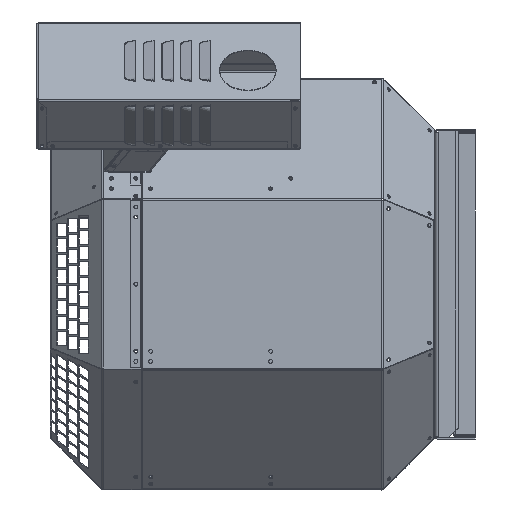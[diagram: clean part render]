
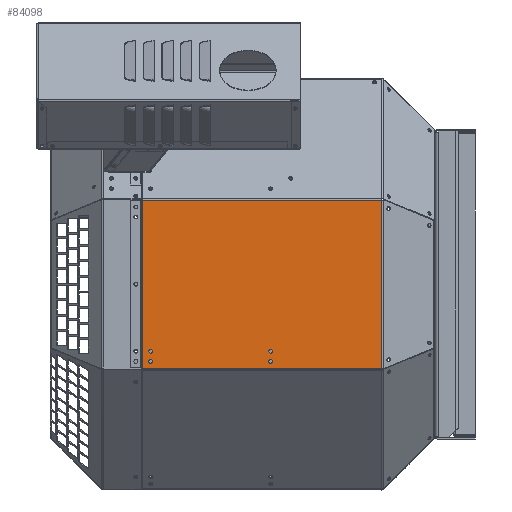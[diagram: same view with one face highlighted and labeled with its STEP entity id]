
A CAD part, left-side view. The second image highlights one B-rep face of the part: STEP entity #84098.
In plain terms, the highlighted planar face has unit normal (-1, 0, 0).
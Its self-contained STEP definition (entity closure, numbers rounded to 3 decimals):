
#552 = DIRECTION ( 'NONE',  ( 0., 0., 1. ) ) ;
#578 = VECTOR ( 'NONE', #54676, 1000. ) ;
#999 = CARTESIAN_POINT ( 'NONE',  ( -226., 334.155, -91.837 ) ) ;
#2700 = CIRCLE ( 'NONE', #22429, 2.1 ) ;
#2717 = VERTEX_POINT ( 'NONE', #24611 ) ;
#4010 = VERTEX_POINT ( 'NONE', #74800 ) ;
#4421 = DIRECTION ( 'NONE',  ( -1., 0., 0. ) ) ;
#6282 = CARTESIAN_POINT ( 'NONE',  ( -226., 180.147, -75.81 ) ) ;
#7883 = ORIENTED_EDGE ( 'NONE', *, *, #78067, .F. ) ;
#8055 = DIRECTION ( 'NONE',  ( -1., 0., 0. ) ) ;
#9243 = ORIENTED_EDGE ( 'NONE', *, *, #32704, .F. ) ;
#9701 = DIRECTION ( 'NONE',  ( -1., 0., 0. ) ) ;
#9742 = VECTOR ( 'NONE', #37483, 1000. ) ;
#10084 = CARTESIAN_POINT ( 'NONE',  ( -226., 334.155, -92.287 ) ) ;
#10524 = CARTESIAN_POINT ( 'NONE',  ( -226., 58.185, 93.198 ) ) ;
#10737 = CARTESIAN_POINT ( 'NONE',  ( -226., 311.927, -86.918 ) ) ;
#10764 = CIRCLE ( 'NONE', #37377, 2.1 ) ;
#11404 = CARTESIAN_POINT ( 'NONE',  ( -226., 180.147, -82.718 ) ) ;
#13666 = CARTESIAN_POINT ( 'NONE',  ( -226., 180.147, -71.61 ) ) ;
#15492 = DIRECTION ( 'NONE',  ( -1., 0., 0. ) ) ;
#16260 = ORIENTED_EDGE ( 'NONE', *, *, #76220, .F. ) ;
#16840 = DIRECTION ( 'NONE',  ( 0., -1., 0. ) ) ;
#17514 = FACE_BOUND ( 'NONE', #49483, .T. ) ;
#18266 = DIRECTION ( 'NONE',  ( -1., 0., 0. ) ) ;
#18417 = LINE ( 'NONE', #999, #578 ) ;
#19089 = VERTEX_POINT ( 'NONE', #11404 ) ;
#19292 = VERTEX_POINT ( 'NONE', #13666 ) ;
#19460 = CARTESIAN_POINT ( 'NONE',  ( -226., 320.763, 91.837 ) ) ;
#19507 = ORIENTED_EDGE ( 'NONE', *, *, #62305, .F. ) ;
#20829 = ORIENTED_EDGE ( 'NONE', *, *, #22721, .F. ) ;
#21372 = PLANE ( 'NONE',  #38663 ) ;
#21894 = EDGE_LOOP ( 'NONE', ( #35838, #7883 ) ) ;
#22270 = ORIENTED_EDGE ( 'NONE', *, *, #38658, .F. ) ;
#22424 = VECTOR ( 'NONE', #49475, 1000. ) ;
#22429 = AXIS2_PLACEMENT_3D ( 'NONE', #80976, #40736, #552 ) ;
#22435 = AXIS2_PLACEMENT_3D ( 'NONE', #49833, #9701, #56619 ) ;
#22721 = EDGE_CURVE ( 'NONE', #52142, #85248, #61144, .T. ) ;
#22914 = EDGE_CURVE ( 'NONE', #4010, #57072, #82163, .T. ) ;
#24611 = CARTESIAN_POINT ( 'NONE',  ( -226., 311.927, -71.61 ) ) ;
#25181 = VECTOR ( 'NONE', #16840, 1000. ) ;
#26021 = CARTESIAN_POINT ( 'NONE',  ( -226., 320.763, 93.198 ) ) ;
#26078 = AXIS2_PLACEMENT_3D ( 'NONE', #55667, #15492, #62386 ) ;
#26151 = VECTOR ( 'NONE', #76429, 1000. ) ;
#28156 = CARTESIAN_POINT ( 'NONE',  ( -226., 180.147, -73.71 ) ) ;
#29575 = EDGE_CURVE ( 'NONE', #53374, #2717, #82384, .T. ) ;
#30696 = ORIENTED_EDGE ( 'NONE', *, *, #68399, .T. ) ;
#30910 = CIRCLE ( 'NONE', #26078, 2.1 ) ;
#31290 = CARTESIAN_POINT ( 'NONE',  ( -226., 320.755, 92.287 ) ) ;
#32245 = CARTESIAN_POINT ( 'NONE',  ( -226., 320.755, -94.837 ) ) ;
#32594 = EDGE_CURVE ( 'NONE', #86813, #85248, #43006, .T. ) ;
#32704 = EDGE_CURVE ( 'NONE', #19089, #65163, #72458, .T. ) ;
#32997 = EDGE_LOOP ( 'NONE', ( #68287, #44229, #71448, #73525, #20829, #67620, #30696, #33866 ) ) ;
#33118 = EDGE_CURVE ( 'NONE', #42669, #19292, #48329, .T. ) ;
#33133 = ORIENTED_EDGE ( 'NONE', *, *, #33118, .F. ) ;
#33251 = FACE_OUTER_BOUND ( 'NONE', #32997, .T. ) ;
#33866 = ORIENTED_EDGE ( 'NONE', *, *, #59999, .T. ) ;
#34847 = DIRECTION ( 'NONE',  ( 0., 0., 1. ) ) ;
#34924 = DIRECTION ( 'NONE',  ( 0., 0., 1. ) ) ;
#35838 = ORIENTED_EDGE ( 'NONE', *, *, #79808, .F. ) ;
#36435 = CIRCLE ( 'NONE', #65949, 2.1 ) ;
#37377 = AXIS2_PLACEMENT_3D ( 'NONE', #79973, #39731, #86667 ) ;
#37483 = DIRECTION ( 'NONE',  ( 0., 0., -1. ) ) ;
#37597 = AXIS2_PLACEMENT_3D ( 'NONE', #58441, #18266, #65217 ) ;
#38658 = EDGE_CURVE ( 'NONE', #19292, #42669, #82693, .T. ) ;
#38663 = AXIS2_PLACEMENT_3D ( 'NONE', #68324, #75056, #34847 ) ;
#38756 = CARTESIAN_POINT ( 'NONE',  ( -226., 58.185, 92.287 ) ) ;
#39523 = VERTEX_POINT ( 'NONE', #10737 ) ;
#39731 = DIRECTION ( 'NONE',  ( -1., 0., 0. ) ) ;
#39745 = VERTEX_POINT ( 'NONE', #53208 ) ;
#39814 = EDGE_CURVE ( 'NONE', #4010, #71738, #18417, .T. ) ;
#40257 = LINE ( 'NONE', #82989, #22424 ) ;
#40736 = DIRECTION ( 'NONE',  ( -1., 0., 0. ) ) ;
#42669 = VERTEX_POINT ( 'NONE', #6282 ) ;
#42843 = AXIS2_PLACEMENT_3D ( 'NONE', #28156, #75137, #34924 ) ;
#43006 = LINE ( 'NONE', #10084, #25181 ) ;
#43940 = LINE ( 'NONE', #76131, #26151 ) ;
#44229 = ORIENTED_EDGE ( 'NONE', *, *, #39814, .T. ) ;
#44512 = CARTESIAN_POINT ( 'NONE',  ( -226., 180.147, -84.818 ) ) ;
#46089 = VECTOR ( 'NONE', #83109, 1000. ) ;
#48180 = CARTESIAN_POINT ( 'NONE',  ( -226., 311.927, -73.71 ) ) ;
#48204 = LINE ( 'NONE', #76346, #46089 ) ;
#48329 = CIRCLE ( 'NONE', #22435, 2.1 ) ;
#48485 = VECTOR ( 'NONE', #73001, 1000. ) ;
#49272 = AXIS2_PLACEMENT_3D ( 'NONE', #48180, #8055, #54946 ) ;
#49475 = DIRECTION ( 'NONE',  ( 0., -1., 0. ) ) ;
#49483 = EDGE_LOOP ( 'NONE', ( #9243, #16260 ) ) ;
#49833 = CARTESIAN_POINT ( 'NONE',  ( -226., 180.147, -73.71 ) ) ;
#50174 = VECTOR ( 'NONE', #79255, 1000. ) ;
#51063 = FACE_BOUND ( 'NONE', #57488, .T. ) ;
#51280 = DIRECTION ( 'NONE',  ( 0., 0., 1. ) ) ;
#51548 = EDGE_CURVE ( 'NONE', #71738, #86813, #65966, .T. ) ;
#52142 = VERTEX_POINT ( 'NONE', #38756 ) ;
#52839 = CARTESIAN_POINT ( 'NONE',  ( -226., 58.185, -92.287 ) ) ;
#52877 = VERTEX_POINT ( 'NONE', #31290 ) ;
#53194 = FACE_BOUND ( 'NONE', #21894, .T. ) ;
#53208 = CARTESIAN_POINT ( 'NONE',  ( -226., 311.927, -82.718 ) ) ;
#53287 = ORIENTED_EDGE ( 'NONE', *, *, #29575, .F. ) ;
#53374 = VERTEX_POINT ( 'NONE', #86410 ) ;
#54676 = DIRECTION ( 'NONE',  ( 0., -1., 0. ) ) ;
#54946 = DIRECTION ( 'NONE',  ( 0., 0., 1. ) ) ;
#55667 = CARTESIAN_POINT ( 'NONE',  ( -226., 311.927, -84.818 ) ) ;
#56273 = EDGE_CURVE ( 'NONE', #52877, #52142, #40257, .T. ) ;
#56619 = DIRECTION ( 'NONE',  ( 0., 0., 1. ) ) ;
#57072 = VERTEX_POINT ( 'NONE', #19460 ) ;
#57488 = EDGE_LOOP ( 'NONE', ( #19507, #53287 ) ) ;
#57821 = CARTESIAN_POINT ( 'NONE',  ( -226., 320.755, -92.287 ) ) ;
#58441 = CARTESIAN_POINT ( 'NONE',  ( -226., 180.147, -84.818 ) ) ;
#58474 = CARTESIAN_POINT ( 'NONE',  ( -226., 180.147, -86.918 ) ) ;
#59999 = EDGE_CURVE ( 'NONE', #61510, #57072, #43940, .T. ) ;
#61144 = LINE ( 'NONE', #10524, #9742 ) ;
#61510 = VERTEX_POINT ( 'NONE', #83751 ) ;
#62305 = EDGE_CURVE ( 'NONE', #2717, #53374, #2700, .T. ) ;
#62386 = DIRECTION ( 'NONE',  ( 0., 0., 1. ) ) ;
#65163 = VERTEX_POINT ( 'NONE', #58474 ) ;
#65217 = DIRECTION ( 'NONE',  ( 0., 0., 1. ) ) ;
#65949 = AXIS2_PLACEMENT_3D ( 'NONE', #44512, #4421, #51280 ) ;
#65966 = LINE ( 'NONE', #32245, #50174 ) ;
#67620 = ORIENTED_EDGE ( 'NONE', *, *, #56273, .F. ) ;
#68287 = ORIENTED_EDGE ( 'NONE', *, *, #22914, .F. ) ;
#68324 = CARTESIAN_POINT ( 'NONE',  ( -226., 334.155, 93.198 ) ) ;
#68399 = EDGE_CURVE ( 'NONE', #52877, #61510, #48204, .T. ) ;
#68996 = FACE_BOUND ( 'NONE', #73811, .T. ) ;
#70976 = CARTESIAN_POINT ( 'NONE',  ( -226., 320.755, -91.837 ) ) ;
#71448 = ORIENTED_EDGE ( 'NONE', *, *, #51548, .T. ) ;
#71738 = VERTEX_POINT ( 'NONE', #70976 ) ;
#72458 = CIRCLE ( 'NONE', #37597, 2.1 ) ;
#73001 = DIRECTION ( 'NONE',  ( 0., 0., 1. ) ) ;
#73525 = ORIENTED_EDGE ( 'NONE', *, *, #32594, .T. ) ;
#73811 = EDGE_LOOP ( 'NONE', ( #22270, #33133 ) ) ;
#74800 = CARTESIAN_POINT ( 'NONE',  ( -226., 320.763, -91.837 ) ) ;
#75056 = DIRECTION ( 'NONE',  ( -1., 0., 0. ) ) ;
#75137 = DIRECTION ( 'NONE',  ( -1., 0., 0. ) ) ;
#76131 = CARTESIAN_POINT ( 'NONE',  ( -226., 334.155, 91.837 ) ) ;
#76220 = EDGE_CURVE ( 'NONE', #65163, #19089, #36435, .T. ) ;
#76346 = CARTESIAN_POINT ( 'NONE',  ( -226., 320.755, 94.837 ) ) ;
#76429 = DIRECTION ( 'NONE',  ( 0., 1., 0. ) ) ;
#78067 = EDGE_CURVE ( 'NONE', #39523, #39745, #30910, .T. ) ;
#79255 = DIRECTION ( 'NONE',  ( 0., 0., -1. ) ) ;
#79808 = EDGE_CURVE ( 'NONE', #39745, #39523, #10764, .T. ) ;
#79973 = CARTESIAN_POINT ( 'NONE',  ( -226., 311.927, -84.818 ) ) ;
#80976 = CARTESIAN_POINT ( 'NONE',  ( -226., 311.927, -73.71 ) ) ;
#82163 = LINE ( 'NONE', #26021, #48485 ) ;
#82384 = CIRCLE ( 'NONE', #49272, 2.1 ) ;
#82693 = CIRCLE ( 'NONE', #42843, 2.1 ) ;
#82989 = CARTESIAN_POINT ( 'NONE',  ( -226., 334.155, 92.287 ) ) ;
#83109 = DIRECTION ( 'NONE',  ( 0., 0., -1. ) ) ;
#83751 = CARTESIAN_POINT ( 'NONE',  ( -226., 320.755, 91.837 ) ) ;
#84098 = ADVANCED_FACE ( 'NONE', ( #17514, #68996, #53194, #51063, #33251 ), #21372, .T. ) ;
#85248 = VERTEX_POINT ( 'NONE', #52839 ) ;
#86410 = CARTESIAN_POINT ( 'NONE',  ( -226., 311.927, -75.81 ) ) ;
#86667 = DIRECTION ( 'NONE',  ( 0., 0., 1. ) ) ;
#86813 = VERTEX_POINT ( 'NONE', #57821 ) ;
